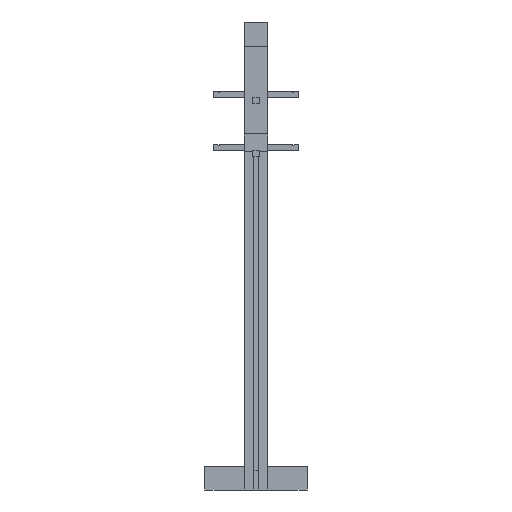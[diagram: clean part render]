
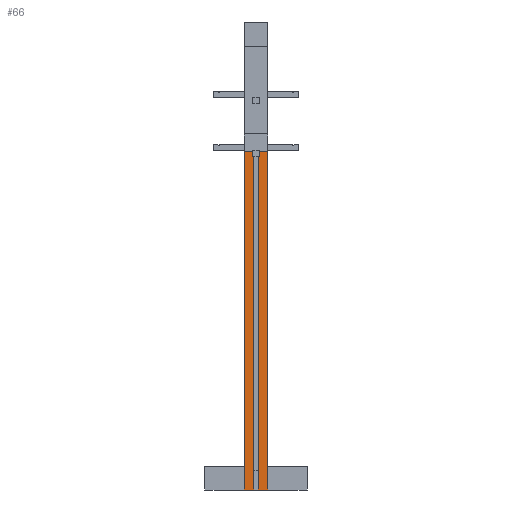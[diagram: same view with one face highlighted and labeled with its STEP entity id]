
A CAD part, left-side view. The second image highlights one B-rep face of the part: STEP entity #66.
In plain terms, the highlighted planar face has unit normal (-1, 0, 0).
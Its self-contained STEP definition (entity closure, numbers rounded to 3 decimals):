
#66=ADVANCED_FACE('',(#356),#3875,.T.);
#356=FACE_OUTER_BOUND('',#614,.T.);
#614=EDGE_LOOP('',(#968,#969,#970,#971,#972,#973,#974,#975,#976,#977,#978,
#979));
#968=ORIENTED_EDGE('',*,*,#2186,.T.);
#969=ORIENTED_EDGE('',*,*,#2187,.T.);
#970=ORIENTED_EDGE('',*,*,#2188,.T.);
#971=ORIENTED_EDGE('',*,*,#2189,.T.);
#972=ORIENTED_EDGE('',*,*,#2164,.F.);
#973=ORIENTED_EDGE('',*,*,#2165,.T.);
#974=ORIENTED_EDGE('',*,*,#2169,.T.);
#975=ORIENTED_EDGE('',*,*,#2170,.T.);
#976=ORIENTED_EDGE('',*,*,#2171,.T.);
#977=ORIENTED_EDGE('',*,*,#2175,.T.);
#978=ORIENTED_EDGE('',*,*,#2160,.T.);
#979=ORIENTED_EDGE('',*,*,#2152,.T.);
#2152=EDGE_CURVE('',#3411,#3428,#2949,.T.);
#2160=EDGE_CURVE('',#3414,#3411,#2957,.T.);
#2164=EDGE_CURVE('',#3417,#3410,#2961,.T.);
#2165=EDGE_CURVE('',#3417,#3422,#2962,.T.);
#2169=EDGE_CURVE('',#3422,#3424,#2966,.T.);
#2170=EDGE_CURVE('',#3424,#3425,#2967,.T.);
#2171=EDGE_CURVE('',#3425,#3423,#2968,.T.);
#2175=EDGE_CURVE('',#3423,#3414,#2972,.T.);
#2186=EDGE_CURVE('',#3428,#3436,#2983,.T.);
#2187=EDGE_CURVE('',#3436,#3437,#2984,.T.);
#2188=EDGE_CURVE('',#3437,#3429,#2985,.T.);
#2189=EDGE_CURVE('',#3429,#3410,#2986,.T.);
#2949=B_SPLINE_CURVE_WITH_KNOTS('',1,(#4741,#4742),.UNSPECIFIED.,.F.,.F.,
(2,2),(-216.,-183.),.UNSPECIFIED.);
#2957=B_SPLINE_CURVE_WITH_KNOTS('',1,(#4757,#4758),.UNSPECIFIED.,.F.,.F.,
(2,2),(0.,1323.384),.UNSPECIFIED.);
#2961=B_SPLINE_CURVE_WITH_KNOTS('',1,(#4765,#4766),.UNSPECIFIED.,.F.,.F.,
(2,2),(0.,1323.384),.UNSPECIFIED.);
#2962=B_SPLINE_CURVE_WITH_KNOTS('',1,(#4767,#4768),.UNSPECIFIED.,.F.,.F.,
(2,2),(126.,162.),.UNSPECIFIED.);
#2966=B_SPLINE_CURVE_WITH_KNOTS('',1,(#4775,#4776),.UNSPECIFIED.,.F.,.F.,
(2,2),(0.,75.),.UNSPECIFIED.);
#2967=B_SPLINE_CURVE_WITH_KNOTS('',1,(#4777,#4778),.UNSPECIFIED.,.F.,.F.,
(2,2),(162.,180.),.UNSPECIFIED.);
#2968=B_SPLINE_CURVE_WITH_KNOTS('',1,(#4779,#4780),.UNSPECIFIED.,.F.,.F.,
(2,2),(-75.,0.),.UNSPECIFIED.);
#2972=B_SPLINE_CURVE_WITH_KNOTS('',1,(#4787,#4788),.UNSPECIFIED.,.F.,.F.,
(2,2),(180.,216.),.UNSPECIFIED.);
#2983=B_SPLINE_CURVE_WITH_KNOTS('',1,(#4809,#4810),.UNSPECIFIED.,.F.,.F.,
(2,2),(27.598,48.),.UNSPECIFIED.);
#2984=B_SPLINE_CURVE_WITH_KNOTS('',1,(#4811,#4812),.UNSPECIFIED.,.F.,.F.,
(2,2),(48.,72.),.UNSPECIFIED.);
#2985=B_SPLINE_CURVE_WITH_KNOTS('',1,(#4813,#4814),.UNSPECIFIED.,.F.,.F.,
(2,2),(72.,92.402),.UNSPECIFIED.);
#2986=B_SPLINE_CURVE_WITH_KNOTS('',1,(#4815,#4816),.UNSPECIFIED.,.F.,.F.,
(2,2),(-159.,-126.),.UNSPECIFIED.);
#3410=VERTEX_POINT('',#4649);
#3411=VERTEX_POINT('',#4650);
#3414=VERTEX_POINT('',#4653);
#3417=VERTEX_POINT('',#4656);
#3422=VERTEX_POINT('',#4661);
#3423=VERTEX_POINT('',#4662);
#3424=VERTEX_POINT('',#4663);
#3425=VERTEX_POINT('',#4664);
#3428=VERTEX_POINT('',#4667);
#3429=VERTEX_POINT('',#4668);
#3436=VERTEX_POINT('',#4675);
#3437=VERTEX_POINT('',#4676);
#3875=PLANE('',#4140);
#4140=AXIS2_PLACEMENT_3D('',#4618,#4378,$);
#4378=DIRECTION('',(-1.,0.,0.));
#4618=CARTESIAN_POINT('',(792.537,45.,0.));
#4649=CARTESIAN_POINT('',(792.537,45.,1323.384));
#4650=CARTESIAN_POINT('',(792.537,-45.,1323.384));
#4653=CARTESIAN_POINT('',(792.537,-45.,0.));
#4656=CARTESIAN_POINT('',(792.537,45.,0.));
#4661=CARTESIAN_POINT('',(792.537,9.,0.));
#4662=CARTESIAN_POINT('',(792.537,-9.,0.));
#4663=CARTESIAN_POINT('',(792.537,9.,75.));
#4664=CARTESIAN_POINT('',(792.537,-9.,75.));
#4667=CARTESIAN_POINT('',(792.537,-12.,1323.384));
#4668=CARTESIAN_POINT('',(792.537,12.,1323.384));
#4675=CARTESIAN_POINT('',(792.537,-12.,1302.983));
#4676=CARTESIAN_POINT('',(792.537,12.,1302.983));
#4741=CARTESIAN_POINT('',(792.537,-45.,1323.384));
#4742=CARTESIAN_POINT('',(792.537,-12.,1323.384));
#4757=CARTESIAN_POINT('',(792.537,-45.,0.));
#4758=CARTESIAN_POINT('',(792.537,-45.,1323.384));
#4765=CARTESIAN_POINT('',(792.537,45.,0.));
#4766=CARTESIAN_POINT('',(792.537,45.,1323.384));
#4767=CARTESIAN_POINT('',(792.537,45.,0.));
#4768=CARTESIAN_POINT('',(792.537,9.,0.));
#4775=CARTESIAN_POINT('',(792.537,9.,0.));
#4776=CARTESIAN_POINT('',(792.537,9.,75.));
#4777=CARTESIAN_POINT('',(792.537,9.,75.));
#4778=CARTESIAN_POINT('',(792.537,-9.,75.));
#4779=CARTESIAN_POINT('',(792.537,-9.,75.));
#4780=CARTESIAN_POINT('',(792.537,-9.,0.));
#4787=CARTESIAN_POINT('',(792.537,-9.,0.));
#4788=CARTESIAN_POINT('',(792.537,-45.,0.));
#4809=CARTESIAN_POINT('',(792.537,-12.,1323.384));
#4810=CARTESIAN_POINT('',(792.537,-12.,1302.983));
#4811=CARTESIAN_POINT('',(792.537,-12.,1302.983));
#4812=CARTESIAN_POINT('',(792.537,12.,1302.983));
#4813=CARTESIAN_POINT('',(792.537,12.,1302.983));
#4814=CARTESIAN_POINT('',(792.537,12.,1323.384));
#4815=CARTESIAN_POINT('',(792.537,12.,1323.384));
#4816=CARTESIAN_POINT('',(792.537,45.,1323.384));
